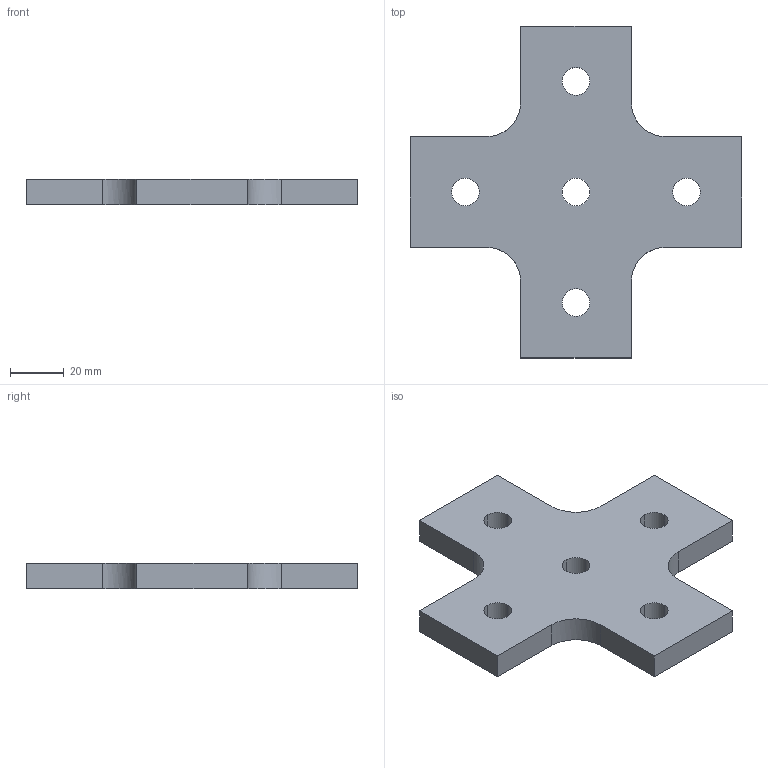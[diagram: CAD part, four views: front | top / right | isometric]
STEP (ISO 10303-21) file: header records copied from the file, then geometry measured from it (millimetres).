
FILE_DESCRIPTION(('TurboCAD Mac Pro'),'Build 980');
FILE_NAME('F20P-2518.stp',' ',(''),(''),'ACIS Interop','IMSI','TurboCAD Mac Pro BY IMSI, INCORPORATED');
FILE_SCHEMA(('automotive_design'));
Length unit declared in the file: inch
Products named in the file (2): 1; 2
Bounding box: 123.82 x 123.82 x 9.53 mm (x, y, z)
Volume: 78462 mm3; surface area: 22528.1 mm2
Topology: 1 solids, 1 shells, 38 faces, 108 edges, 72 vertices
Faces by surface type: bspline 24, plane 14
Entity records: 2178 total; most frequent: CARTESIAN_POINT 640, ORIENTED_EDGE 216, EDGE_CURVE 108, DIRECTION 104, STYLED_ITEM 75, PRESENTATION_STYLE_ASSIGNMENT 75, COLOUR_RGB 75, B_SPLINE_CURVE_WITH_KNOTS 72
